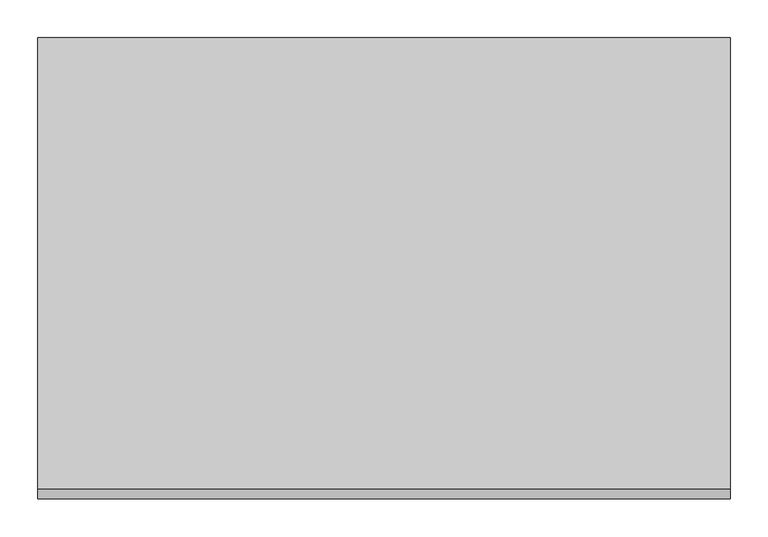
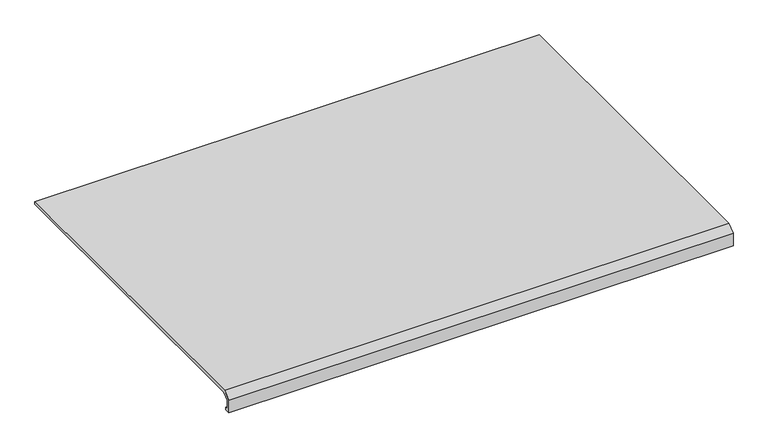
"""IFC4 building model written with IfcOpenShell, lengths in millimetres: furniture geometry, Haworth_Belong_Blotter : Blotter."""

from ifc_helpers import new_model, si_unit, frame, origin, place, context, project, spatial, polyline, outline, extrude, source, transform, mapped, element, save


def furniture_96489599(model_context):
    return source(origin(), model_context, "Body", "SweptSolid", [
        extrude(outline(polyline([(-592.5968004, 736.8979469), (-592.5968004, 731.9010136), (-601.9949831, 731.9010136), (-601.9949831, 756.5662454), (-588.5857065, 767.0038128), (7.6050169, 767.0038128), (7.6050169, 762.2413128), (-585.9028639, 762.2413128), (-597.0693135, 753.5672056), (-597.0693135, 736.8979469), (-592.5968004, 736.8979469)])), frame((-12.7, 0.0, 0.0), z_axis=(1.0, 0.0, 0.0), x_axis=(0.0, 1.0, 0.0)), (0.0, 0.0, 1.0), 914.4),
    ])


if __name__ == "__main__":
    model = new_model("IFC4")
    model_context = context("Model", 3, world=origin())
    ifc_project = project(units=[si_unit("LENGTHUNIT", "METRE", prefix="MILLI")], contexts=[model_context])
    site = spatial("IfcSite", under=ifc_project)
    building = spatial("IfcBuilding", under=site)
    placement = place(None, origin())
    furniture_shape = furniture_96489599(model_context)
    element("IfcFurniture", 1, ObjectType="Haworth_Belong_Blotter : Blotter", at=placement, inside=building, context=model_context, shape_type="MappedRepresentation", body=[
        mapped(furniture_shape, transform((0.0, 0.0, 0.0), x_axis=(1.0, 0.0, 0.0), y_axis=(0.0, 1.0, 0.0), z_axis=(0.0, 0.0, 1.0))),
    ])
    save(model, "model.ifc")
